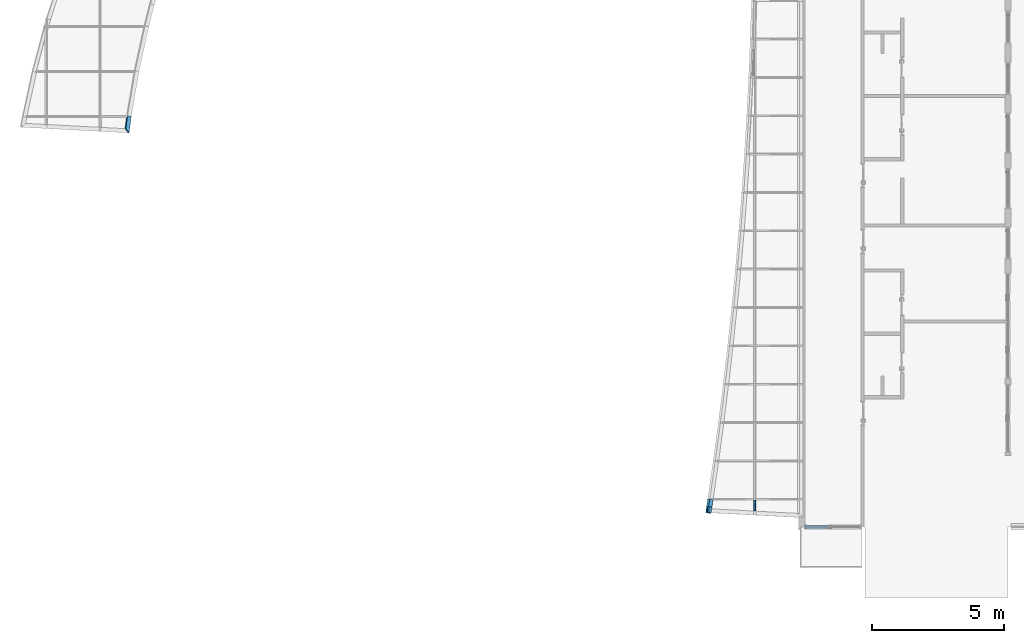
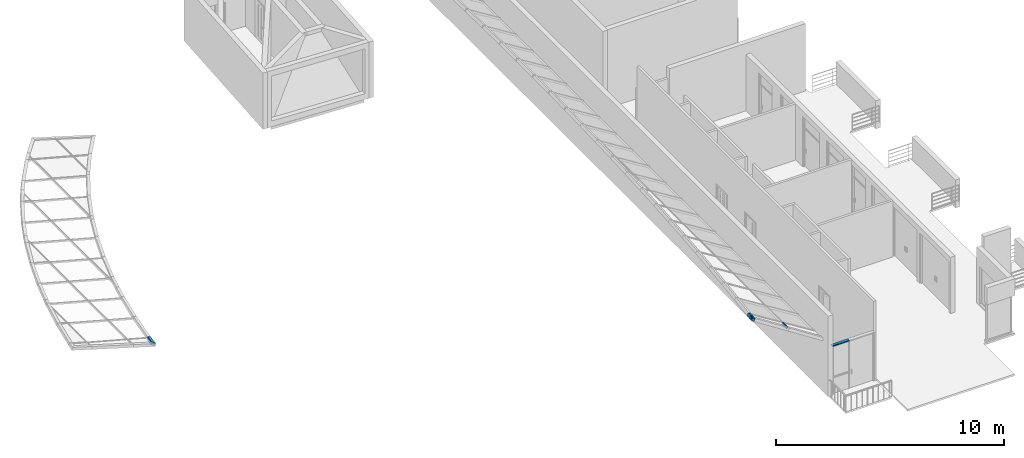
# One storey, part 8 of 33: 6 members, 3 elements without a shape of their own.
"""IFC2X3 building model written with IfcOpenShell, lengths in millimetres."""

import ifcopenshell
import ifcopenshell.guid

model = None  # the IFC model being written
_history = None  # IfcOwnerHistory: only IFC2X3 demands one
_inside = {}  # id of a spatial element -> (the spatial element, [elements in it])
_under = {}  # id of a project, library or spatial element -> (it, [spatial elements below it])
_declared = {}  # id of a project -> (the project, [libraries it declares])
_typed = {}  # id of a type object -> (the type object, [elements of that type])
_made_of = {}  # id of a material, layer set ... -> (it, [elements and type objects made of it])


def new_model(schema):
    """Start an empty IFC model of exactly this schema.

    Asked for "IFC4X3", IfcOpenShell would pick the latest addendum, in which some entities
    have other attributes; the version numbers below select the first issue.
    IFC2X3 requires an IfcOwnerHistory on every rooted entity: one is made here for all.
    """
    global model, _history
    if schema == "IFC4X3":
        model = ifcopenshell.file(schema_version=(4, 3, 0, 0))
    else:
        model = ifcopenshell.file(schema=schema)
    _inside.clear()
    _under.clear()
    _declared.clear()
    _typed.clear()
    _made_of.clear()
    _history = None
    if model.schema == "IFC2X3":
        org = make("IfcOrganization", Name="unknown")
        user = make(
            "IfcPersonAndOrganization",
            ThePerson=make("IfcPerson", FamilyName="unknown"),
            TheOrganization=org,
        )
        app = make(
            "IfcApplication",
            ApplicationDeveloper=org,
            Version="unknown",
            ApplicationFullName="unknown",
            ApplicationIdentifier="unknown",
        )
        _history = make(
            "IfcOwnerHistory",
            OwningUser=user,
            OwningApplication=app,
            ChangeAction="ADDED",
            CreationDate=0,
        )
    return model


def make(cls, **values):
    """One entity of the class cls with the attributes given. An attribute that is None is left unset."""
    return model.create_entity(
        cls, **{name: value for name, value in values.items() if value is not None}
    )


def entity(cls, *values):
    """Any entity or typed value of the class cls, its attributes in the order of the schema. None: left unset."""
    e = model.create_entity(cls)
    for i, value in enumerate(values):
        if value is not None:
            e[i] = value
    return e


def rooted(cls, **values):
    """An entity with a GlobalId (a new one), such as an element, a storey or a relation."""
    return make(cls, GlobalId=ifcopenshell.guid.new(), OwnerHistory=_history, **values)


def si_unit(unit_type, name, prefix=None):
    """IfcSIUnit, for example si_unit("LENGTHUNIT", "METRE", prefix="MILLI")."""
    return make("IfcSIUnit", UnitType=unit_type, Prefix=prefix, Name=name)


def converted_unit(unit_type, name, factor, base, dimensions=None, offset=None):
    """IfcConversionBasedUnit, such as the inch: factor (a typed value) times the base unit."""
    return make(
        "IfcConversionBasedUnit"
        if offset is None
        else "IfcConversionBasedUnitWithOffset",
        ConversionOffset=offset,
        Dimensions=None
        if dimensions is None
        else entity("IfcDimensionalExponents", *dimensions),
        UnitType=unit_type,
        Name=name,
        ConversionFactor=make(
            "IfcMeasureWithUnit", ValueComponent=factor, UnitComponent=base
        ),
    )


def derived_unit(unit_type, elements):
    """IfcDerivedUnit: a product of units, each with its exponent."""
    return make(
        "IfcDerivedUnit",
        Elements=[
            make("IfcDerivedUnitElement", Unit=unit, Exponent=power)
            for unit, power in elements
        ],
        UnitType=unit_type,
    )


def assignment(units):
    """IfcUnitAssignment: the units of a project."""
    return None if units is None else make("IfcUnitAssignment", Units=units)


def point(xyz):
    """IfcCartesianPoint."""
    return None if xyz is None else make("IfcCartesianPoint", Coordinates=xyz)


def direction(xyz):
    """IfcDirection."""
    return None if xyz is None else make("IfcDirection", DirectionRatios=xyz)


def frame(location, z_axis=None, x_axis=None):
    """IfcAxis2Placement3D, a coordinate frame: its origin and axes. An axis left out is left unset."""
    return make(
        "IfcAxis2Placement3D",
        Location=point(location),
        Axis=direction(z_axis),
        RefDirection=direction(x_axis),
    )


def frame_2d(location, x_axis=None):
    """IfcAxis2Placement2D, a coordinate frame in the plane: its origin and x axis."""
    return make(
        "IfcAxis2Placement2D", Location=point(location), RefDirection=direction(x_axis)
    )


def origin():
    """The frame at (0, 0, 0) with its axes left unset."""
    return frame((0.0, 0.0, 0.0))


def origin_2d_with_axis():
    """The frame at (0, 0) in the plane with the x axis (1, 0) written out."""
    return frame_2d((0.0, 0.0), x_axis=(1.0, 0.0))


def place(relative_to, where):
    """IfcLocalPlacement: puts the frame where relative to a parent placement (None: the world)."""
    return make(
        "IfcLocalPlacement", PlacementRelTo=relative_to, RelativePlacement=where
    )


def context(
    kind, dimensions, precision=None, world=None, true_north=None, identifier=None
):
    """IfcGeometricRepresentationContext, for example the 3D "Model" context."""
    return make(
        "IfcGeometricRepresentationContext",
        ContextIdentifier=identifier,
        ContextType=kind,
        CoordinateSpaceDimension=dimensions,
        Precision=precision,
        WorldCoordinateSystem=world,
        TrueNorth=true_north,
    )


def subcontext(parent, identifier, kind, view, scale=None):
    """IfcGeometricRepresentationSubContext, for example "Body" below "Model"."""
    return make(
        "IfcGeometricRepresentationSubContext",
        ContextIdentifier=identifier,
        ContextType=kind,
        ParentContext=parent,
        TargetScale=scale,
        TargetView=view,
    )


def project(units=None, contexts=None):
    """IfcProject with its units and contexts."""
    return rooted(
        "IfcProject",
        Name="project",
        RepresentationContexts=contexts,
        UnitsInContext=assignment(units),
    )


def spatial(cls, under=None, at=None, **own):
    """A site, building, storey or space (cls), placed at a placement, below another one or the project."""
    s = rooted(cls, ObjectPlacement=at, **own)
    if under is not None:
        _under.setdefault(under.id(), (under, []))[1].append(s)
    return s


def polyline(points):
    """IfcPolyline through the points."""
    return make("IfcPolyline", Points=[point(p) for p in points])


def profile(cls, at=None, kind="AREA", **sizes):
    """A parametric profile (cls). Its sizes go by their IFC names, for example OverallWidth=200.0."""
    return make(cls, ProfileType=kind, Position=at, **sizes)


def rectangle(**sizes):
    """IfcRectangleProfileDef."""
    return profile("IfcRectangleProfileDef", **sizes)


def extrude(swept, where, along, depth):
    """IfcExtrudedAreaSolid: the profile swept, set in the frame where, extruded along a direction by depth."""
    return make(
        "IfcExtrudedAreaSolid",
        SweptArea=swept,
        Position=where,
        ExtrudedDirection=direction(along),
        Depth=depth,
    )


def clip(a, b, op="DIFFERENCE"):
    """IfcBooleanClippingResult: the solid a cut by the half space b."""
    return make(
        "IfcBooleanClippingResult", Operator=op, FirstOperand=a, SecondOperand=b
    )


def halfspace(plane, agree):
    """IfcHalfSpaceSolid: all space on one side of the plane z = 0 of the frame plane."""
    return make(
        "IfcHalfSpaceSolid",
        BaseSurface=make("IfcPlane", Position=plane),
        AgreementFlag=agree,
    )


def bounded_halfspace(plane, agree, where, boundary):
    """IfcPolygonalBoundedHalfSpace: a half space limited to a polygon's prism."""
    return make(
        "IfcPolygonalBoundedHalfSpace",
        BaseSurface=make("IfcPlane", Position=plane),
        AgreementFlag=agree,
        Position=where,
        PolygonalBoundary=boundary,
    )


def shape(context_of_items, identifier, shape_type, items):
    """IfcShapeRepresentation: the items that make up one representation, for example the "Body"."""
    return make(
        "IfcShapeRepresentation",
        ContextOfItems=context_of_items,
        RepresentationIdentifier=identifier,
        RepresentationType=shape_type,
        Items=items,
    )


def source(mapping_origin, context_of_items, identifier, shape_type, items):
    """IfcRepresentationMap: a shape defined once, which mapped items show again and again."""
    return make(
        "IfcRepresentationMap",
        MappingOrigin=mapping_origin,
        MappedRepresentation=shape(context_of_items, identifier, shape_type, items),
    )


def transform(
    local_origin,
    x_axis=None,
    y_axis=None,
    z_axis=None,
    scale=None,
    scale2=None,
    scale3=None,
    uniform=True,
):
    """IfcCartesianTransformationOperator3D, or its non-uniform kind. x_axis, y_axis, z_axis: its Axis1, 2, 3."""
    if uniform:
        return make(
            "IfcCartesianTransformationOperator3D",
            Axis1=direction(x_axis),
            Axis2=direction(y_axis),
            LocalOrigin=point(local_origin),
            Scale=scale,
            Axis3=direction(z_axis),
        )
    return make(
        "IfcCartesianTransformationOperator3DnonUniform",
        Axis1=direction(x_axis),
        Axis2=direction(y_axis),
        LocalOrigin=point(local_origin),
        Scale=scale,
        Axis3=direction(z_axis),
        Scale2=scale2,
        Scale3=scale3,
    )


def mapped(mapping_source, mapping_target):
    """IfcMappedItem: shows the shape of a source again, moved by a transform."""
    return make(
        "IfcMappedItem", MappingSource=mapping_source, MappingTarget=mapping_target
    )


def material(Name=None, Category=None):
    """IfcMaterial."""
    return make("IfcMaterial", Name=Name, Category=Category)


def made_of(thing, what):
    """Note that an element or type object is made of a material, layer set ...; save() writes the relation."""
    if what is not None:
        _made_of.setdefault(what.id(), (what, []))[1].append(thing)
    return thing


def type_object(cls, material=None, **own):
    """A type object (cls), such as IfcWallType, which elements share."""
    return made_of(rooted(cls, **own), material)


def type_shapes(of_type, sources):
    """Give a type object the sources (RepresentationMaps) that its elements show as mapped items."""
    of_type.RepresentationMaps = sources


def element(
    cls,
    number,
    at=None,
    inside=None,
    cuts=None,
    type_object=None,
    material=None,
    context=None,
    identifier="Body",
    shape_type=None,
    held_by="IfcProductDefinitionShape",
    body=None,
    shapes=None,
    **own,
):
    """One element of the class cls, such as IfcWall. Its Tag is "e" and its number.

    at: its placement. inside: the storey or other place that contains it. cuts: it is an
    opening in that element (IfcRelVoidsElement). A single representation is given by context,
    identifier, shape_type and body (its items); several are given by shapes. held_by: the class
    of the entity that holds the representations. save() writes the other relations.
    """
    e = rooted(cls, Tag="e%d" % number, ObjectPlacement=at, **own)
    if body is not None:
        shapes = [shape(context, identifier, shape_type, body)]
    if shapes is not None:
        e.Representation = make(held_by, Representations=shapes)
    if inside is not None:
        _inside.setdefault(inside.id(), (inside, []))[1].append(e)
    if cuts is not None:
        rooted(
            "IfcRelVoidsElement", RelatingBuildingElement=cuts, RelatedOpeningElement=e
        )
    if type_object is not None:
        _typed.setdefault(type_object.id(), (type_object, []))[1].append(e)
    return made_of(e, material)


def aggregate(whole, parts):
    """IfcRelAggregates: a whole, such as a stair, and the parts it consists of."""
    return rooted("IfcRelAggregates", RelatingObject=whole, RelatedObjects=parts)


def save(model, path):
    """Write the relations noted so far, then the file.

    IfcRelAggregates (storeys below a building ...), IfcRelContainedInSpatialStructure (elements
    in a storey), IfcRelDefinesByType, IfcRelAssociatesMaterial and IfcRelDeclares: one each for
    every whole, place, type object, material and project.
    """
    for whole, parts in _under.values():
        aggregate(whole, parts)
    for where, things in _inside.values():
        rooted(
            "IfcRelContainedInSpatialStructure",
            RelatedElements=things,
            RelatingStructure=where,
        )
    for kind, things in _typed.values():
        rooted("IfcRelDefinesByType", RelatedObjects=things, RelatingType=kind)
    for what, things in _made_of.values():
        rooted("IfcRelAssociatesMaterial", RelatedObjects=things, RelatingMaterial=what)
    for by, libraries in _declared.values():
        rooted("IfcRelDeclares", RelatingContext=by, RelatedDefinitions=libraries)
    model.write(path)


model = new_model("IFC2X3")

# Units and contexts
model_context = context("Model", 3, precision=0.01, world=origin(), true_north=direction((6.12303176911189e-17, 1.0)))
body_context = subcontext(model_context, "Body", "Model", "MODEL_VIEW")
ifc_project = project(units=[si_unit("LENGTHUNIT", "METRE", prefix="MILLI"), si_unit("AREAUNIT", "SQUARE_METRE"), si_unit("VOLUMEUNIT", "CUBIC_METRE"), converted_unit("PLANEANGLEUNIT", "DEGREE", entity("IfcRatioMeasure", 0.0174532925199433), si_unit("PLANEANGLEUNIT", "RADIAN"), dimensions=[0, 0, 0, 0, 0, 0, 0]), si_unit("MASSUNIT", "GRAM", prefix="KILO"), derived_unit("MASSDENSITYUNIT", [(si_unit("MASSUNIT", "GRAM", prefix="KILO"), 1), (si_unit("LENGTHUNIT", "METRE"), -3)]), si_unit("TIMEUNIT", "SECOND"), si_unit("FREQUENCYUNIT", "HERTZ"), si_unit("THERMODYNAMICTEMPERATUREUNIT", "DEGREE_CELSIUS"), derived_unit("THERMALTRANSMITTANCEUNIT", [(si_unit("MASSUNIT", "GRAM", prefix="KILO"), 1), (si_unit("THERMODYNAMICTEMPERATUREUNIT", "KELVIN"), -1), (si_unit("TIMEUNIT", "SECOND"), -3)]), derived_unit("VOLUMETRICFLOWRATEUNIT", [(si_unit("LENGTHUNIT", "METRE"), 3), (si_unit("TIMEUNIT", "SECOND"), -1)]), si_unit("ELECTRICCURRENTUNIT", "AMPERE"), si_unit("ELECTRICVOLTAGEUNIT", "VOLT"), si_unit("POWERUNIT", "WATT"), si_unit("FORCEUNIT", "NEWTON", prefix="KILO"), si_unit("ILLUMINANCEUNIT", "LUX"), si_unit("LUMINOUSFLUXUNIT", "LUMEN"), si_unit("LUMINOUSINTENSITYUNIT", "CANDELA"), derived_unit("USERDEFINED", [(si_unit("MASSUNIT", "GRAM", prefix="KILO"), -1), (si_unit("LENGTHUNIT", "METRE"), -2), (si_unit("TIMEUNIT", "SECOND"), 3), (si_unit("LUMINOUSFLUXUNIT", "LUMEN"), 1)]), derived_unit("LINEARVELOCITYUNIT", [(si_unit("LENGTHUNIT", "METRE"), 1), (si_unit("TIMEUNIT", "SECOND"), -1)]), si_unit("PRESSUREUNIT", "PASCAL"), derived_unit("USERDEFINED", [(si_unit("LENGTHUNIT", "METRE"), -2), (si_unit("MASSUNIT", "GRAM", prefix="KILO"), 1), (si_unit("TIMEUNIT", "SECOND"), -2)])], contexts=[model_context])

# Site, building, storey
site_placement = place(None, origin())
site = spatial("IfcSite", under=ifc_project, at=site_placement, Name="表面", CompositionType="ELEMENT")
building_placement = place(site_placement, origin())
building = spatial("IfcBuilding", under=site, at=building_placement, CompositionType="ELEMENT")
storey_placement = place(building_placement, frame((0.0, 0.0, 6000.0)))
storey = spatial("IfcBuildingStorey", under=building, at=storey_placement, Name="3F", CompositionType="ELEMENT", Elevation=6000.00000000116)

# Curtain wall, member
curtain_wall_type_1 = type_object("IfcCurtainWallType", Name="幕墙系统:1700 x 2100mm", PredefinedType="NOTDEFINED")
curtain_wall_1_placement = place(storey_placement, frame((0.0, 0.0, -6000.0)))
curtain_wall_1 = element("IfcCurtainWall", 1, at=curtain_wall_1_placement, inside=storey, type_object=curtain_wall_type_1, Name="幕墙系统:1700 x 2100mm", ObjectType="幕墙系统:1700 x 2100mm")
ifc_material_1 = material(Name="木质 - 木材")
member_type_1 = type_object("IfcMemberType", Name="200 x 150mm", PredefinedType="MEMBER")
shared_shape_1 = source(origin(), body_context, "Body", "Clipping", [
    clip(clip(extrude(rectangle(XDim=150.0, YDim=150.0, at=frame_2d((2.8421709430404e-14, 1.4210854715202e-14), x_axis=(1.0, 0.0))), frame((-75.0, 0.0, -628.844841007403), z_axis=(0.0, 0.0, 1.0), x_axis=(0.0, -1.0, 0.0)), (0.0, 0.0, 1.0), 628.844841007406), halfspace(frame((0.0, 304.800000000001, -626.426852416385), z_axis=(0.016117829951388, 0.0, -0.999870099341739), x_axis=(0.999870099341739, 0.0, 0.016117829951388)), False)), halfspace(frame((0.0, -304.800000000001, 0.0), z_axis=(-0.674165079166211, 0.0, 0.738580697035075), x_axis=(-0.738580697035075, 0.0, -0.674165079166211)), False)),
])
type_shapes(member_type_1, [shared_shape_1])
member_1_placement = place(storey_placement, frame((-39888.9335743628, -14514.5203853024, 2524.03431529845), z_axis=(-0.136421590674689, -0.989976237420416, 0.0365540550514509), x_axis=(0.956243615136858, -0.14123402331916, -0.256224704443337)))
member_1 = element("IfcMember", 2, at=member_1_placement, type_object=member_type_1, material=ifc_material_1, Name="矩形竖梃:200 x 150mm", ObjectType="200 x 150mm", context=body_context, shape_type="MappedRepresentation", body=[
    mapped(shared_shape_1, transform((0.0, 0.0, 0.0), scale=1.0)),
])
aggregate(curtain_wall_1, [member_1])

curtain_wall_type_2 = type_object("IfcCurtainWallType", Name="幕墙:幕墙 2", PredefinedType="NOTDEFINED")
curtain_wall_2_placement = place(storey_placement, frame((0.0, 0.0, -6000.0)))
curtain_wall_2 = element("IfcCurtainWall", 3, at=curtain_wall_2_placement, inside=storey, type_object=curtain_wall_type_2, Name="幕墙:幕墙 2", ObjectType="幕墙:幕墙 2")
ifc_material_2 = material(Name="金属 - 铝")
member_type_2 = type_object("IfcMemberType", Name="50 x 150mm", PredefinedType="MEMBER")
shared_shape_2 = source(origin(), body_context, "Body", "SweptSolid", [
    extrude(rectangle(XDim=150.0, YDim=50.0, at=origin_2d_with_axis()), frame((-25.0, 0.0, -860.0), z_axis=(0.0, 0.0, 1.0), x_axis=(0.0, -1.0, 0.0)), (0.0, 0.0, 1.0), 859.999999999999),
])
type_shapes(member_type_2, [shared_shape_2])
member_2_placement = place(storey_placement, frame((-13450.2499126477, -29416.868426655, 2600.0), z_axis=(1.0, 0.0, 0.0), x_axis=(0.0, 0.0, 1.0)))
member_2 = element("IfcMember", 4, at=member_2_placement, type_object=member_type_2, material=ifc_material_2, Name="矩形竖梃:50 x 150mm", ObjectType="50 x 150mm", context=body_context, shape_type="MappedRepresentation", body=[
    mapped(shared_shape_2, transform((0.0, 0.0, 0.0), scale=1.0)),
])
aggregate(curtain_wall_2, [member_2])

# Curtain wall, members
curtain_wall_type_3 = type_object("IfcCurtainWallType", Name="幕墙系统:1450 x 2100mm", PredefinedType="NOTDEFINED")
curtain_wall_3_placement = place(storey_placement, frame((0.0, 0.0, -6000.0)))
curtain_wall_3 = element("IfcCurtainWall", 5, at=curtain_wall_3_placement, inside=storey, type_object=curtain_wall_type_3, Name="幕墙系统:1450 x 2100mm", ObjectType="幕墙系统:1450 x 2100mm")
member_type_3 = type_object("IfcMemberType", Name="200 x 150mm", PredefinedType="MEMBER")
shared_shape_3 = source(origin(), body_context, "Body", "Clipping", [
    clip(extrude(rectangle(XDim=150.0, YDim=150.0, at=origin_2d_with_axis()), frame((-75.0, 0.0, -286.347898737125), z_axis=(0.0, 0.0, 1.0), x_axis=(0.0, -1.0, 0.0)), (0.0, 0.0, 1.0), 286.834747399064), halfspace(frame((0.0, 304.8, 0.0), z_axis=(0.00324564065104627, 0.0, 0.999994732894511), x_axis=(0.999994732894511, 0.0, -0.00324564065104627)), False)),
])
type_shapes(member_type_3, [shared_shape_3])
placement = place(building_placement, frame((0.0, 0.0, 9000.0)))
member_3_placement = place(placement, frame((-17949.8892268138, -28370.8979069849, 1912.53257922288), z_axis=(0.147316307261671, 0.984796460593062, -0.0920534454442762), x_axis=(-0.835154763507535, 0.173712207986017, 0.521862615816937)))
member_3 = element("IfcMember", 6, at=member_3_placement, type_object=member_type_3, material=ifc_material_1, Name="矩形竖梃:200 x 150mm", ObjectType="200 x 150mm", context=body_context, shape_type="MappedRepresentation", body=[
    mapped(shared_shape_3, transform((0.0, 0.0, 0.0), scale=1.0)),
])
member_type_4 = type_object("IfcMemberType", Name="200 x 150mm", PredefinedType="MEMBER")
shared_shape_4 = source(origin(), body_context, "Body", "SweptSolid", [
    extrude(rectangle(XDim=150.0, YDim=150.0, at=origin_2d_with_axis()), frame((-75.0, 0.0, -229.222914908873), z_axis=(0.0, 0.0, 1.0), x_axis=(0.0, -1.0, 0.0)), (0.0, 0.0, 1.0), 229.365637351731),
])
type_shapes(member_type_4, [shared_shape_4])
member_4_placement = place(placement, frame((-17992.0519165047, -28652.7517516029, 1938.87875180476), z_axis=(0.148905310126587, 0.984464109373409, -0.0930463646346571), x_axis=(-0.834872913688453, 0.175585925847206, 0.521686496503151)))
member_4 = element("IfcMember", 7, at=member_4_placement, type_object=member_type_4, material=ifc_material_1, Name="矩形竖梃:200 x 150mm", ObjectType="200 x 150mm", context=body_context, shape_type="MappedRepresentation", body=[
    mapped(shared_shape_4, transform((0.0, 0.0, 0.0), scale=1.0)),
])
member_type_5 = type_object("IfcMemberType", Name="50 x 100mm", PredefinedType="MEMBER")
shared_shape_5 = source(origin(), body_context, "Body", "Clipping", [
    clip(clip(extrude(rectangle(XDim=100.0, YDim=50.0, at=origin_2d_with_axis()), frame((0.0, 0.0, -428.600486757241), z_axis=(0.0, 0.0, 1.0), x_axis=(0.0, -1.0, 0.0)), (0.0, 0.0, 1.0), 428.600486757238), bounded_halfspace(frame((-6.66007304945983, 75.0, -427.785381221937), z_axis=(0.0444004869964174, 0.0, -0.999013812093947), x_axis=(-0.999013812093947, 0.0, -0.0444004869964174)), False, frame((0.0, 0.0, -428.600486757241), z_axis=(0.0, 0.0, 1.0), x_axis=(0.0, -1.0, 0.0)), polyline([(50.0, -6.66007304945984), (50.0, -25.0), (-50.0, -25.0), (-50.0, -6.66007304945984), (50.0, -6.66007304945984)]))), bounded_halfspace(frame((2093.33992695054, 75.0, -334.452314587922), z_axis=(0.0444004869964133, 0.0, -0.999013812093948), x_axis=(-0.999013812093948, 0.0, -0.0444004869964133)), False, frame((0.0, 0.0, -428.600486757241), z_axis=(0.0, 0.0, 1.0), x_axis=(0.0, -1.0, 0.0)), polyline([(-50.0, 25.0), (50.0, 25.0), (50.0, -6.66007304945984), (-50.0, -6.66007304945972), (-50.0, 25.0)]))),
])
type_shapes(member_type_5, [shared_shape_5])
member_5_placement = place(placement, frame((-16211.1509145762, -28395.8979069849, 826.048296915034), z_axis=(0.0, 1.0, 0.0), x_axis=(-0.848048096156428, 0.0, 0.529919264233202)))
member_5 = element("IfcMember", 8, at=member_5_placement, type_object=member_type_5, material=ifc_material_2, Name="矩形竖梃:50 x 100mm", ObjectType="50 x 100mm", context=body_context, shape_type="MappedRepresentation", body=[
    mapped(shared_shape_5, transform((0.0, 0.0, 0.0), scale=1.0)),
])
member_type_6 = type_object("IfcMemberType", Name="50 x 100mm", PredefinedType="MEMBER")
shared_shape_6 = source(origin(), body_context, "Body", "SweptSolid", [
    extrude(rectangle(XDim=100.0, YDim=50.0, at=origin_2d_with_axis()), frame((0.0, 0.0, -227.450541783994), z_axis=(0.0, 0.0, 1.0), x_axis=(0.0, -1.0, 0.0)), (0.0, 0.0, 1.0), 227.450541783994),
])
type_shapes(member_type_6, [shared_shape_6])
member_6_placement = place(placement, frame((-17992.0519165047, -28652.7517516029, 1938.87875180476), z_axis=(0.0, 1.0, 0.0), x_axis=(-0.848048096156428, 0.0, 0.529919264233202)))
member_6 = element("IfcMember", 9, at=member_6_placement, type_object=member_type_6, material=ifc_material_2, Name="矩形竖梃:50 x 100mm", ObjectType="50 x 100mm", context=body_context, shape_type="MappedRepresentation", body=[
    mapped(shared_shape_6, transform((0.0, 0.0, 0.0), scale=1.0)),
])
aggregate(curtain_wall_3, [member_3, member_4, member_5, member_6])

save(model, "model.ifc")
